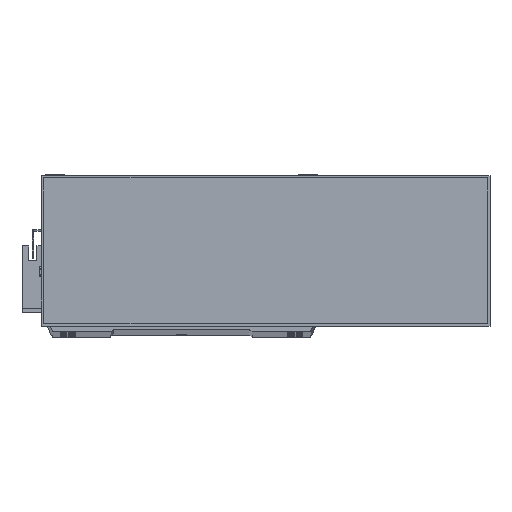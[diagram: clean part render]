
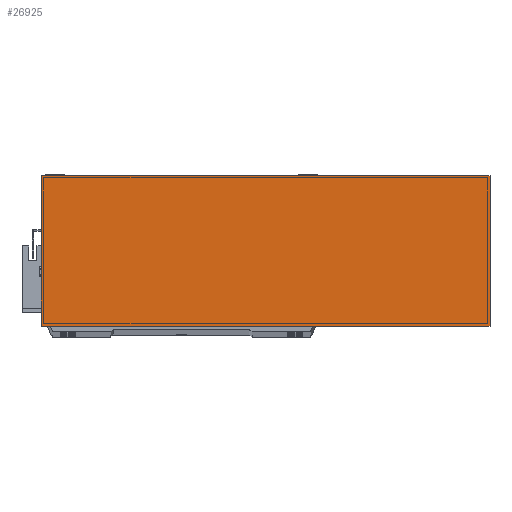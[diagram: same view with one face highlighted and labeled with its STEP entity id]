
A CAD part, top view. The second image highlights one B-rep face of the part: STEP entity #26925.
In plain terms, the highlighted planar face has unit normal (0, 0, 1).
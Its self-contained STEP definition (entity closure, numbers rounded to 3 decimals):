
#126 = CARTESIAN_POINT ( 'NONE',  ( 277., 93., 50. ) ) ;
#219 = CARTESIAN_POINT ( 'NONE',  ( 0., 0., 50. ) ) ;
#461 = DIRECTION ( 'NONE',  ( 1., 0., 0. ) ) ;
#467 = CARTESIAN_POINT ( 'NONE',  ( 0., 0., 50. ) ) ;
#925 = VERTEX_POINT ( 'NONE', #126 ) ;
#1136 = LINE ( 'NONE', #467, #19723 ) ;
#2557 = VECTOR ( 'NONE', #12462, 1000. ) ;
#4490 = EDGE_CURVE ( 'NONE', #28213, #28601, #1136, .T. ) ;
#4634 = ORIENTED_EDGE ( 'NONE', *, *, #4490, .T. ) ;
#4764 = CARTESIAN_POINT ( 'NONE',  ( 0., 93., 50. ) ) ;
#5071 = VERTEX_POINT ( 'NONE', #4764 ) ;
#5882 = ORIENTED_EDGE ( 'NONE', *, *, #30129, .T. ) ;
#6899 = AXIS2_PLACEMENT_3D ( 'NONE', #15554, #22863, #8397 ) ;
#7630 = LINE ( 'NONE', #23746, #26134 ) ;
#8397 = DIRECTION ( 'NONE',  ( -1., 0., 0. ) ) ;
#8454 = EDGE_LOOP ( 'NONE', ( #8474, #4634, #5882, #30354 ) ) ;
#8474 = ORIENTED_EDGE ( 'NONE', *, *, #30227, .T. ) ;
#10032 = CARTESIAN_POINT ( 'NONE',  ( 0., 93., 50. ) ) ;
#11309 = CARTESIAN_POINT ( 'NONE',  ( 277., 0., 50. ) ) ;
#12462 = DIRECTION ( 'NONE',  ( -1., 0., 0. ) ) ;
#15459 = LINE ( 'NONE', #10032, #2557 ) ;
#15554 = CARTESIAN_POINT ( 'NONE',  ( 0., 0., 50. ) ) ;
#16313 = LINE ( 'NONE', #11309, #22754 ) ;
#18881 = DIRECTION ( 'NONE',  ( 0., -1., 0. ) ) ;
#19723 = VECTOR ( 'NONE', #461, 1000. ) ;
#22754 = VECTOR ( 'NONE', #25756, 1000. ) ;
#22863 = DIRECTION ( 'NONE',  ( 0., 0., -1. ) ) ;
#23624 = CARTESIAN_POINT ( 'NONE',  ( 277., 0., 50. ) ) ;
#23746 = CARTESIAN_POINT ( 'NONE',  ( 0., 0., 50. ) ) ;
#25756 = DIRECTION ( 'NONE',  ( 0., 1., 0. ) ) ;
#26134 = VECTOR ( 'NONE', #18881, 1000. ) ;
#26925 = ADVANCED_FACE ( 'NONE', ( #27023 ), #30076, .F. ) ;
#27023 = FACE_OUTER_BOUND ( 'NONE', #8454, .T. ) ;
#28213 = VERTEX_POINT ( 'NONE', #219 ) ;
#28601 = VERTEX_POINT ( 'NONE', #23624 ) ;
#30076 = PLANE ( 'NONE',  #6899 ) ;
#30129 = EDGE_CURVE ( 'NONE', #28601, #925, #16313, .T. ) ;
#30227 = EDGE_CURVE ( 'NONE', #5071, #28213, #7630, .T. ) ;
#30354 = ORIENTED_EDGE ( 'NONE', *, *, #31476, .T. ) ;
#31476 = EDGE_CURVE ( 'NONE', #925, #5071, #15459, .T. ) ;
